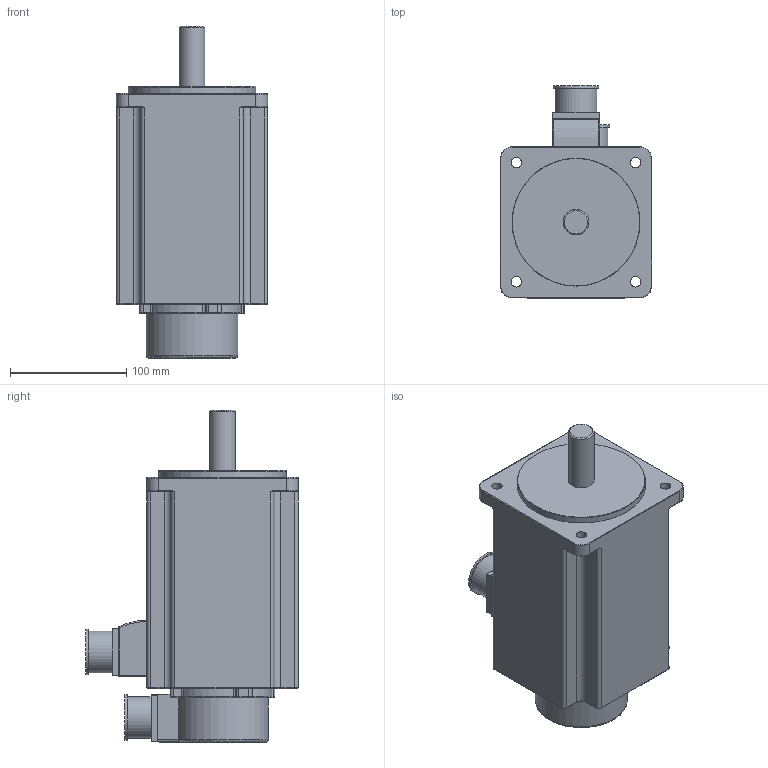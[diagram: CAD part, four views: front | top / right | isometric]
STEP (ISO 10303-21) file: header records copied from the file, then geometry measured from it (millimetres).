
FILE_DESCRIPTION(/* description */ (''),/* implementation_level */ '2;1');
FILE_NAME(/* name */ '130MSL14320.stp',/* time_stamp */ '2019-11-22T13:48:01+08:00',/* author */ (''),/* organization */ (''),/* preprocessor_version */ 'ST-DEVELOPER v16',/* originating_system */ 'SIEMENS PLM Software NX 10.0',/* authorisation */ '');
FILE_SCHEMA (('CONFIG_CONTROL_DESIGN'));
Length unit declared in the file: millimetre
Products named in the file (1): 130MSL14320
Bounding box: 130 x 182.5 x 285.5 mm (x, y, z)
Volume: 3221132.1 mm3; surface area: 156728.8 mm2
Topology: 1 solids, 1 shells, 254 faces, 605 edges, 343 vertices
Faces by surface type: cylinder 117, plane 60, torus 55, sphere 12, bspline 8, cone 2
Full cylindrical faces by diameter (mm): 9 x4, 22 x1, 36 x2, 39 x2, 110 x1
Entity records: 7294 total; most frequent: CARTESIAN_POINT 1396, DIRECTION 1339, ORIENTED_EDGE 1138, EDGE_CURVE 569, AXIS2_PLACEMENT_3D 545, VERTEX_POINT 337, CIRCLE 296, EDGE_LOOP 282
